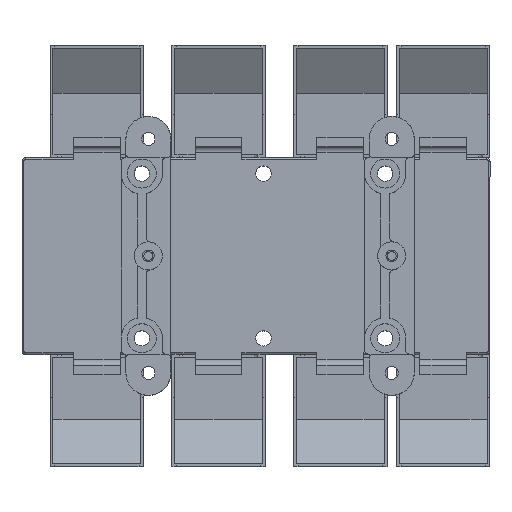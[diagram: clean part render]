
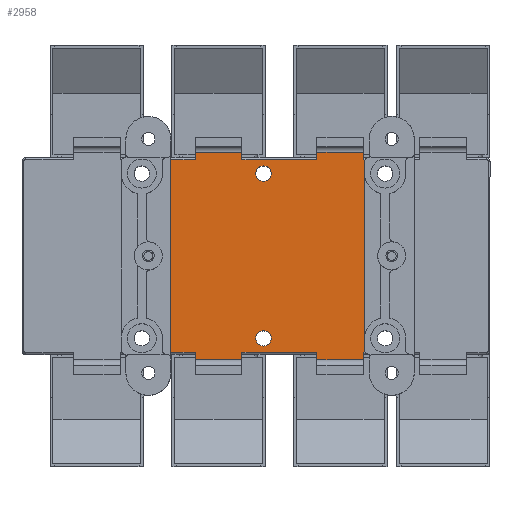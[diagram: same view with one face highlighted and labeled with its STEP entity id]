
A CAD part, top view. The second image highlights one B-rep face of the part: STEP entity #2958.
In plain terms, the highlighted planar face has unit normal (0, 0, 1).
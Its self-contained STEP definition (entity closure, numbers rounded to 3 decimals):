
#67=PLANE('',#9877);
#906=LINE('',#13634,#1963);
#907=LINE('',#13637,#1964);
#908=LINE('',#13641,#1965);
#909=LINE('',#13645,#1966);
#910=LINE('',#13647,#1967);
#911=LINE('',#13649,#1968);
#912=LINE('',#13651,#1969);
#913=LINE('',#13653,#1970);
#914=LINE('',#13655,#1971);
#915=LINE('',#13657,#1972);
#916=LINE('',#13659,#1973);
#917=LINE('',#13661,#1974);
#918=LINE('',#13663,#1975);
#919=LINE('',#13665,#1976);
#920=LINE('',#13667,#1977);
#921=LINE('',#13669,#1978);
#922=LINE('',#13671,#1979);
#923=LINE('',#13673,#1980);
#924=LINE('',#13675,#1981);
#925=LINE('',#13677,#1982);
#1963=VECTOR('',#10843,1.);
#1964=VECTOR('',#10844,1.);
#1965=VECTOR('',#10847,1.);
#1966=VECTOR('',#10850,1.);
#1967=VECTOR('',#10851,1.);
#1968=VECTOR('',#10852,1.);
#1969=VECTOR('',#10853,1.);
#1970=VECTOR('',#10854,1.);
#1971=VECTOR('',#10855,1.);
#1972=VECTOR('',#10856,1.);
#1973=VECTOR('',#10857,1.);
#1974=VECTOR('',#10858,1.);
#1975=VECTOR('',#10859,1.);
#1976=VECTOR('',#10860,1.);
#1977=VECTOR('',#10861,1.);
#1978=VECTOR('',#10862,1.);
#1979=VECTOR('',#10863,1.);
#1980=VECTOR('',#10864,1.);
#1981=VECTOR('',#10865,1.);
#1982=VECTOR('',#10866,1.);
#2958=ADVANCED_FACE('',(#3601,#3602,#3603),#67,.F.);
#3601=FACE_BOUND('',#3762,.T.);
#3602=FACE_BOUND('',#3763,.T.);
#3603=FACE_BOUND('',#3764,.T.);
#3762=EDGE_LOOP('',(#4449,#4450,#4451,#4452,#4453,#4454,#4455,#4456,#4457,
#4458,#4459,#4460,#4461,#4462,#4463,#4464,#4465,#4466,#4467,#4468,#4469,
#4470));
#3763=EDGE_LOOP('',(#4471));
#3764=EDGE_LOOP('',(#4472));
#4449=ORIENTED_EDGE('',*,*,#8175,.T.);
#4450=ORIENTED_EDGE('',*,*,#8176,.T.);
#4451=ORIENTED_EDGE('',*,*,#8177,.T.);
#4452=ORIENTED_EDGE('',*,*,#8178,.T.);
#4453=ORIENTED_EDGE('',*,*,#8179,.T.);
#4454=ORIENTED_EDGE('',*,*,#8180,.T.);
#4455=ORIENTED_EDGE('',*,*,#8181,.T.);
#4456=ORIENTED_EDGE('',*,*,#8182,.F.);
#4457=ORIENTED_EDGE('',*,*,#8183,.T.);
#4458=ORIENTED_EDGE('',*,*,#8184,.T.);
#4459=ORIENTED_EDGE('',*,*,#8185,.F.);
#4460=ORIENTED_EDGE('',*,*,#8186,.F.);
#4461=ORIENTED_EDGE('',*,*,#8187,.F.);
#4462=ORIENTED_EDGE('',*,*,#8188,.T.);
#4463=ORIENTED_EDGE('',*,*,#8189,.F.);
#4464=ORIENTED_EDGE('',*,*,#8190,.T.);
#4465=ORIENTED_EDGE('',*,*,#8191,.F.);
#4466=ORIENTED_EDGE('',*,*,#8192,.T.);
#4467=ORIENTED_EDGE('',*,*,#8193,.F.);
#4468=ORIENTED_EDGE('',*,*,#8194,.T.);
#4469=ORIENTED_EDGE('',*,*,#8195,.T.);
#4470=ORIENTED_EDGE('',*,*,#8196,.T.);
#4471=ORIENTED_EDGE('',*,*,#8064,.F.);
#4472=ORIENTED_EDGE('',*,*,#8062,.F.);
#7134=VERTEX_POINT('',#13403);
#7136=VERTEX_POINT('',#13408);
#7239=VERTEX_POINT('',#13635);
#7240=VERTEX_POINT('',#13636);
#7241=VERTEX_POINT('',#13638);
#7242=VERTEX_POINT('',#13640);
#7243=VERTEX_POINT('',#13642);
#7244=VERTEX_POINT('',#13644);
#7245=VERTEX_POINT('',#13646);
#7246=VERTEX_POINT('',#13648);
#7247=VERTEX_POINT('',#13650);
#7248=VERTEX_POINT('',#13652);
#7249=VERTEX_POINT('',#13654);
#7250=VERTEX_POINT('',#13656);
#7251=VERTEX_POINT('',#13658);
#7252=VERTEX_POINT('',#13660);
#7253=VERTEX_POINT('',#13662);
#7254=VERTEX_POINT('',#13664);
#7255=VERTEX_POINT('',#13666);
#7256=VERTEX_POINT('',#13668);
#7257=VERTEX_POINT('',#13670);
#7258=VERTEX_POINT('',#13672);
#7259=VERTEX_POINT('',#13674);
#7260=VERTEX_POINT('',#13676);
#8062=EDGE_CURVE('',#7134,#7134,#9465,.T.);
#8064=EDGE_CURVE('',#7136,#7136,#9467,.T.);
#8175=EDGE_CURVE('',#7239,#7240,#906,.T.);
#8176=EDGE_CURVE('',#7240,#7241,#907,.T.);
#8177=EDGE_CURVE('',#7241,#7242,#9502,.T.);
#8178=EDGE_CURVE('',#7242,#7243,#908,.T.);
#8179=EDGE_CURVE('',#7243,#7244,#9503,.T.);
#8180=EDGE_CURVE('',#7244,#7245,#909,.T.);
#8181=EDGE_CURVE('',#7245,#7246,#910,.T.);
#8182=EDGE_CURVE('',#7247,#7246,#911,.T.);
#8183=EDGE_CURVE('',#7247,#7248,#912,.T.);
#8184=EDGE_CURVE('',#7248,#7249,#913,.T.);
#8185=EDGE_CURVE('',#7250,#7249,#914,.T.);
#8186=EDGE_CURVE('',#7251,#7250,#915,.T.);
#8187=EDGE_CURVE('',#7252,#7251,#916,.T.);
#8188=EDGE_CURVE('',#7252,#7253,#917,.T.);
#8189=EDGE_CURVE('',#7254,#7253,#918,.T.);
#8190=EDGE_CURVE('',#7254,#7255,#919,.T.);
#8191=EDGE_CURVE('',#7256,#7255,#920,.T.);
#8192=EDGE_CURVE('',#7256,#7257,#921,.T.);
#8193=EDGE_CURVE('',#7258,#7257,#922,.T.);
#8194=EDGE_CURVE('',#7258,#7259,#923,.T.);
#8195=EDGE_CURVE('',#7259,#7260,#924,.T.);
#8196=EDGE_CURVE('',#7260,#7239,#925,.T.);
#9465=CIRCLE('',#9824,4.1);
#9467=CIRCLE('',#9827,4.1);
#9502=CIRCLE('',#9875,2.);
#9503=CIRCLE('',#9876,2.);
#9824=AXIS2_PLACEMENT_3D('',#13402,#10665,#10666);
#9827=AXIS2_PLACEMENT_3D('',#13407,#10671,#10672);
#9875=AXIS2_PLACEMENT_3D('',#13639,#10845,#10846);
#9876=AXIS2_PLACEMENT_3D('',#13643,#10848,#10849);
#9877=AXIS2_PLACEMENT_3D('',#13678,#10867,#10868);
#10665=DIRECTION('',(0.,0.,1.));
#10666=DIRECTION('',(-1.,0.,0.));
#10671=DIRECTION('',(0.,0.,1.));
#10672=DIRECTION('',(-1.,0.,0.));
#10843=DIRECTION('',(0.,1.,0.));
#10844=DIRECTION('',(1.,0.,0.));
#10845=DIRECTION('',(0.,0.,-1.));
#10846=DIRECTION('',(-1.,0.,0.));
#10847=DIRECTION('',(0.,1.,0.));
#10848=DIRECTION('',(0.,0.,-1.));
#10849=DIRECTION('',(-1.,0.,0.));
#10850=DIRECTION('',(-1.,0.,0.));
#10851=DIRECTION('',(0.,1.,0.));
#10852=DIRECTION('',(1.,0.,0.));
#10853=DIRECTION('',(0.,-1.,0.));
#10854=DIRECTION('',(-1.,0.,0.));
#10855=DIRECTION('',(0.,-1.,0.));
#10856=DIRECTION('',(1.,0.,0.));
#10857=DIRECTION('',(0.,1.,0.));
#10858=DIRECTION('',(-1.,0.,0.));
#10859=DIRECTION('',(0.,1.,0.));
#10860=DIRECTION('',(1.,0.,0.));
#10861=DIRECTION('',(0.,1.,0.));
#10862=DIRECTION('',(1.,0.,0.));
#10863=DIRECTION('',(0.,-1.,0.));
#10864=DIRECTION('',(1.,0.,0.));
#10865=DIRECTION('',(0.,-1.,0.));
#10866=DIRECTION('',(1.,0.,0.));
#10867=DIRECTION('',(0.,0.,-1.));
#10868=DIRECTION('',(-1.,0.,0.));
#13402=CARTESIAN_POINT('',(-68.5,44.,0.));
#13403=CARTESIAN_POINT('',(-72.6,44.,0.));
#13407=CARTESIAN_POINT('',(-68.5,-44.,0.));
#13408=CARTESIAN_POINT('',(-72.6,-44.,0.));
#13634=CARTESIAN_POINT('',(-15.,-50.5,0.));
#13635=CARTESIAN_POINT('',(-15.,-55.5,0.));
#13636=CARTESIAN_POINT('',(-15.,-51.5,0.));
#13637=CARTESIAN_POINT('',(-12.5,-51.5,0.));
#13638=CARTESIAN_POINT('',(-14.232,-51.5,0.));
#13639=CARTESIAN_POINT('',(-12.5,-50.5,0.));
#13640=CARTESIAN_POINT('',(-14.5,-50.5,0.));
#13641=CARTESIAN_POINT('',(-14.5,62.5,0.));
#13642=CARTESIAN_POINT('',(-14.5,50.5,0.));
#13643=CARTESIAN_POINT('',(-12.5,50.5,0.));
#13644=CARTESIAN_POINT('',(-14.232,51.5,0.));
#13645=CARTESIAN_POINT('',(-195.5,51.5,0.));
#13646=CARTESIAN_POINT('',(-15.,51.5,0.));
#13647=CARTESIAN_POINT('',(-15.,-50.5,0.));
#13648=CARTESIAN_POINT('',(-15.,55.5,0.));
#13649=CARTESIAN_POINT('',(-40.,55.5,0.));
#13650=CARTESIAN_POINT('',(-40.,55.5,0.));
#13651=CARTESIAN_POINT('',(-40.,-50.5,0.));
#13652=CARTESIAN_POINT('',(-40.,51.5,0.));
#13653=CARTESIAN_POINT('',(-195.5,51.5,0.));
#13654=CARTESIAN_POINT('',(-80.,51.5,0.));
#13655=CARTESIAN_POINT('',(-80.,-50.5,0.));
#13656=CARTESIAN_POINT('',(-80.,55.5,0.));
#13657=CARTESIAN_POINT('',(-105.,55.5,0.));
#13658=CARTESIAN_POINT('',(-105.,55.5,0.));
#13659=CARTESIAN_POINT('',(-105.,-50.5,0.));
#13660=CARTESIAN_POINT('',(-105.,51.5,0.));
#13661=CARTESIAN_POINT('',(-195.5,51.5,0.));
#13662=CARTESIAN_POINT('',(-118.,51.5,0.));
#13663=CARTESIAN_POINT('',(-118.,62.5,0.));
#13664=CARTESIAN_POINT('',(-118.,-51.5,0.));
#13665=CARTESIAN_POINT('',(-12.5,-51.5,0.));
#13666=CARTESIAN_POINT('',(-105.,-51.5,0.));
#13667=CARTESIAN_POINT('',(-105.,-50.5,0.));
#13668=CARTESIAN_POINT('',(-105.,-55.5,0.));
#13669=CARTESIAN_POINT('',(-105.,-55.5,0.));
#13670=CARTESIAN_POINT('',(-80.,-55.5,0.));
#13671=CARTESIAN_POINT('',(-80.,-50.5,0.));
#13672=CARTESIAN_POINT('',(-80.,-51.5,0.));
#13673=CARTESIAN_POINT('',(-12.5,-51.5,0.));
#13674=CARTESIAN_POINT('',(-40.,-51.5,0.));
#13675=CARTESIAN_POINT('',(-40.,-50.5,0.));
#13676=CARTESIAN_POINT('',(-40.,-55.5,0.));
#13677=CARTESIAN_POINT('',(-40.,-55.5,0.));
#13678=CARTESIAN_POINT('',(50.5,-50.5,0.));
